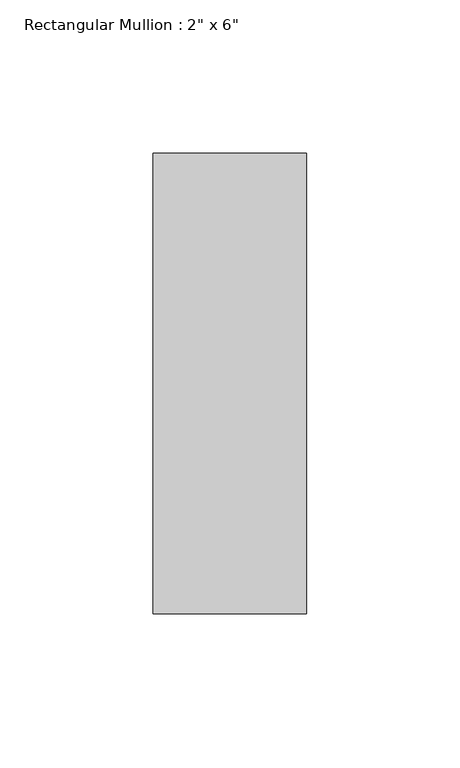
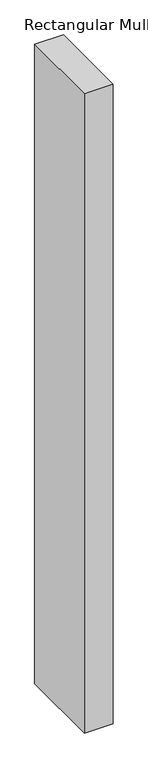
"""IFC4 building model written with IfcOpenShell, lengths in millimetres: member geometry."""

from ifc_helpers import new_model, si_unit, frame, origin, place, context, project, spatial, polyline, outline, extrude, source, transform, mapped, element, save


def member_59fcc678(model_context):
    return source(origin(), model_context, "Body", "SweptSolid", [
        extrude(outline(polyline([(25.0, 150.0), (25.0, 0.0), (-25.0, 0.0), (-25.0, 150.0), (25.0, 150.0)])), frame((0.0, 0.0, -1175.0000004), z_axis=(0.0, 0.0, 1.0), x_axis=(1.0, 0.0, 0.0)), (0.0, 0.0, 1.0), 1175.0000004),
    ])


if __name__ == "__main__":
    model = new_model("IFC4")
    model_context = context("Model", 3, world=origin())
    ifc_project = project(units=[si_unit("LENGTHUNIT", "METRE", prefix="MILLI")], contexts=[model_context])
    site = spatial("IfcSite", under=ifc_project)
    building = spatial("IfcBuilding", under=site)
    placement = place(None, origin())
    member_shape = member_59fcc678(model_context)
    element("IfcMember", 1, ObjectType="Rectangular Mullion : 2\" x 6\"", at=placement, inside=building, context=model_context, shape_type="MappedRepresentation", body=[
        mapped(member_shape, transform((0.0, 0.0, 0.0), x_axis=(1.0, 0.0, 0.0), y_axis=(0.0, 1.0, 0.0), z_axis=(0.0, 0.0, 1.0))),
    ])
    save(model, "model.ifc")
